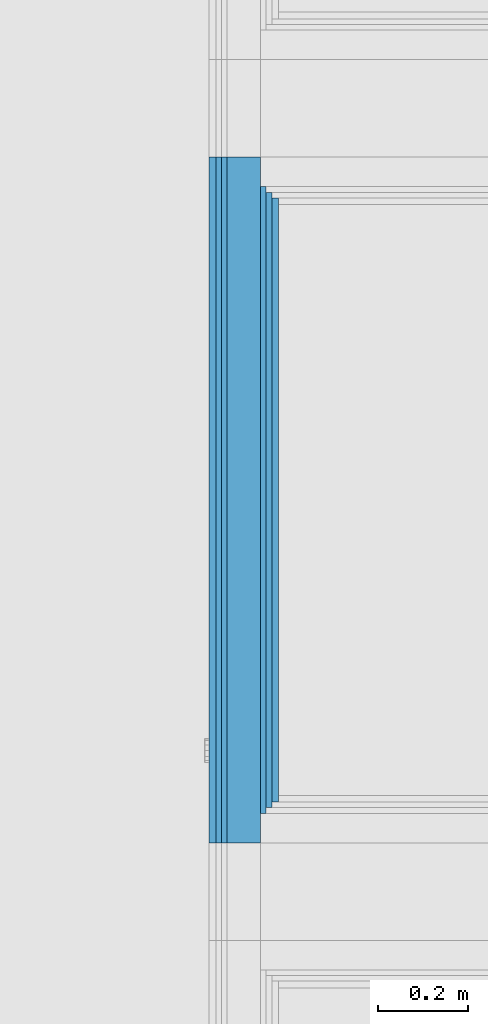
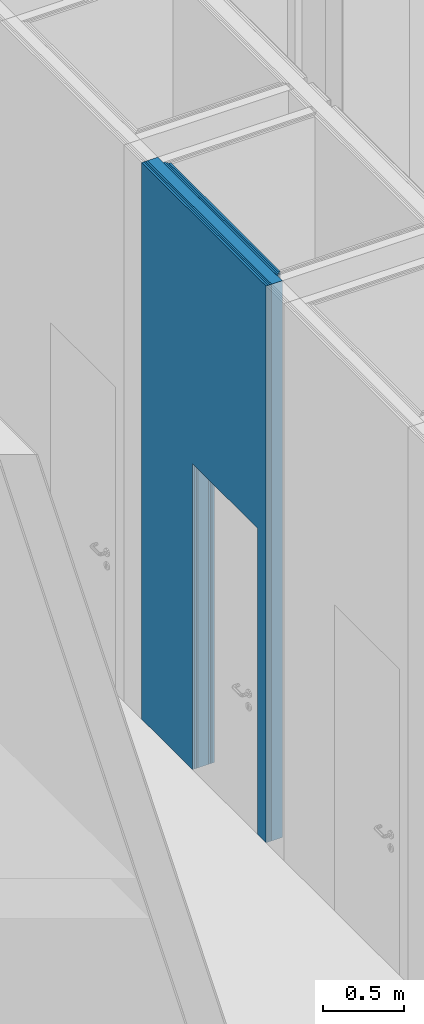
# One storey, part 62 of 260: 7 building element parts, 1 opening, 1 element without a shape of its own.
"""IFC2X3 building model written with IfcOpenShell, lengths in millimetres."""

import ifcopenshell
import ifcopenshell.guid

model = None  # the IFC model being written
_history = None  # IfcOwnerHistory: only IFC2X3 demands one
_inside = {}  # id of a spatial element -> (the spatial element, [elements in it])
_under = {}  # id of a project, library or spatial element -> (it, [spatial elements below it])
_declared = {}  # id of a project -> (the project, [libraries it declares])
_typed = {}  # id of a type object -> (the type object, [elements of that type])
_made_of = {}  # id of a material, layer set ... -> (it, [elements and type objects made of it])


def new_model(schema):
    """Start an empty IFC model of exactly this schema.

    Asked for "IFC4X3", IfcOpenShell would pick the latest addendum, in which some entities
    have other attributes; the version numbers below select the first issue.
    IFC2X3 requires an IfcOwnerHistory on every rooted entity: one is made here for all.
    """
    global model, _history
    if schema == "IFC4X3":
        model = ifcopenshell.file(schema_version=(4, 3, 0, 0))
    else:
        model = ifcopenshell.file(schema=schema)
    _inside.clear()
    _under.clear()
    _declared.clear()
    _typed.clear()
    _made_of.clear()
    _history = None
    if model.schema == "IFC2X3":
        org = make("IfcOrganization", Name="unknown")
        user = make(
            "IfcPersonAndOrganization",
            ThePerson=make("IfcPerson", FamilyName="unknown"),
            TheOrganization=org,
        )
        app = make(
            "IfcApplication",
            ApplicationDeveloper=org,
            Version="unknown",
            ApplicationFullName="unknown",
            ApplicationIdentifier="unknown",
        )
        _history = make(
            "IfcOwnerHistory",
            OwningUser=user,
            OwningApplication=app,
            ChangeAction="ADDED",
            CreationDate=0,
        )
    return model


def make(cls, **values):
    """One entity of the class cls with the attributes given. An attribute that is None is left unset."""
    return model.create_entity(
        cls, **{name: value for name, value in values.items() if value is not None}
    )


def entity(cls, *values):
    """Any entity or typed value of the class cls, its attributes in the order of the schema. None: left unset."""
    e = model.create_entity(cls)
    for i, value in enumerate(values):
        if value is not None:
            e[i] = value
    return e


def rooted(cls, **values):
    """An entity with a GlobalId (a new one), such as an element, a storey or a relation."""
    return make(cls, GlobalId=ifcopenshell.guid.new(), OwnerHistory=_history, **values)


def si_unit(unit_type, name, prefix=None):
    """IfcSIUnit, for example si_unit("LENGTHUNIT", "METRE", prefix="MILLI")."""
    return make("IfcSIUnit", UnitType=unit_type, Prefix=prefix, Name=name)


def converted_unit(unit_type, name, factor, base, dimensions=None, offset=None):
    """IfcConversionBasedUnit, such as the inch: factor (a typed value) times the base unit."""
    return make(
        "IfcConversionBasedUnit"
        if offset is None
        else "IfcConversionBasedUnitWithOffset",
        ConversionOffset=offset,
        Dimensions=None
        if dimensions is None
        else entity("IfcDimensionalExponents", *dimensions),
        UnitType=unit_type,
        Name=name,
        ConversionFactor=make(
            "IfcMeasureWithUnit", ValueComponent=factor, UnitComponent=base
        ),
    )


def derived_unit(unit_type, elements):
    """IfcDerivedUnit: a product of units, each with its exponent."""
    return make(
        "IfcDerivedUnit",
        Elements=[
            make("IfcDerivedUnitElement", Unit=unit, Exponent=power)
            for unit, power in elements
        ],
        UnitType=unit_type,
    )


def money_unit(currency):
    """IfcMonetaryUnit."""
    return make("IfcMonetaryUnit", Currency=currency)


def assignment(units):
    """IfcUnitAssignment: the units of a project."""
    return None if units is None else make("IfcUnitAssignment", Units=units)


def point(xyz):
    """IfcCartesianPoint."""
    return None if xyz is None else make("IfcCartesianPoint", Coordinates=xyz)


def direction(xyz):
    """IfcDirection."""
    return None if xyz is None else make("IfcDirection", DirectionRatios=xyz)


def frame(location, z_axis=None, x_axis=None):
    """IfcAxis2Placement3D, a coordinate frame: its origin and axes. An axis left out is left unset."""
    return make(
        "IfcAxis2Placement3D",
        Location=point(location),
        Axis=direction(z_axis),
        RefDirection=direction(x_axis),
    )


def origin_with_axes():
    """The frame at (0, 0, 0) with the z axis (0, 0, 1) and the x axis (1, 0, 0) written out."""
    return frame((0.0, 0.0, 0.0), z_axis=(0.0, 0.0, 1.0), x_axis=(1.0, 0.0, 0.0))


def place(relative_to, where):
    """IfcLocalPlacement: puts the frame where relative to a parent placement (None: the world)."""
    return make(
        "IfcLocalPlacement", PlacementRelTo=relative_to, RelativePlacement=where
    )


def context(
    kind, dimensions, precision=None, world=None, true_north=None, identifier=None
):
    """IfcGeometricRepresentationContext, for example the 3D "Model" context."""
    return make(
        "IfcGeometricRepresentationContext",
        ContextIdentifier=identifier,
        ContextType=kind,
        CoordinateSpaceDimension=dimensions,
        Precision=precision,
        WorldCoordinateSystem=world,
        TrueNorth=true_north,
    )


def subcontext(parent, identifier, kind, view, scale=None):
    """IfcGeometricRepresentationSubContext, for example "Body" below "Model"."""
    return make(
        "IfcGeometricRepresentationSubContext",
        ContextIdentifier=identifier,
        ContextType=kind,
        ParentContext=parent,
        TargetScale=scale,
        TargetView=view,
    )


def project(units=None, contexts=None):
    """IfcProject with its units and contexts."""
    return rooted(
        "IfcProject",
        Name="project",
        RepresentationContexts=contexts,
        UnitsInContext=assignment(units),
    )


def spatial(cls, under=None, at=None, **own):
    """A site, building, storey or space (cls), placed at a placement, below another one or the project."""
    s = rooted(cls, ObjectPlacement=at, **own)
    if under is not None:
        _under.setdefault(under.id(), (under, []))[1].append(s)
    return s


def faces_of(points, faces, orient=None, outer=None):
    """IfcFace entities. A face is a list of loops; a loop is a list of indices into points, from 0.

    orient and outer hold one flag for each loop. By default every Orientation is true, the
    first loop of a face is its IfcFaceOuterBound and the others are IfcFaceBound.
    """
    made = []
    for i, loops in enumerate(faces):
        bounds = []
        for j, loop in enumerate(loops):
            is_outer = j == 0 if outer is None else outer[i][j]
            bounds.append(
                make(
                    "IfcFaceOuterBound" if is_outer else "IfcFaceBound",
                    Bound=make("IfcPolyLoop", Polygon=[points[k] for k in loop]),
                    Orientation=True if orient is None else orient[i][j],
                )
            )
        made.append(make("IfcFace", Bounds=bounds))
    return made


def faceted_brep(points, faces, orient=None, outer=None, voids=None):
    """IfcFacetedBrep: a solid bounded by flat faces; with voids (closed shells), ...WithVoids."""
    shared = [point(p) for p in points]
    hull = make("IfcClosedShell", CfsFaces=faces_of(shared, faces, orient, outer))
    if voids is None:
        return make("IfcFacetedBrep", Outer=hull)
    return make(
        "IfcFacetedBrepWithVoids",
        Outer=hull,
        Voids=[
            make(cls, CfsFaces=faces_of(shared, fs, o, b)) for cls, fs, o, b in voids
        ],
    )


def shape(context_of_items, identifier, shape_type, items):
    """IfcShapeRepresentation: the items that make up one representation, for example the "Body"."""
    return make(
        "IfcShapeRepresentation",
        ContextOfItems=context_of_items,
        RepresentationIdentifier=identifier,
        RepresentationType=shape_type,
        Items=items,
    )


def material(Name=None, Category=None):
    """IfcMaterial."""
    return make("IfcMaterial", Name=Name, Category=Category)


def made_of(thing, what):
    """Note that an element or type object is made of a material, layer set ...; save() writes the relation."""
    if what is not None:
        _made_of.setdefault(what.id(), (what, []))[1].append(thing)
    return thing


def type_object(cls, material=None, **own):
    """A type object (cls), such as IfcWallType, which elements share."""
    return made_of(rooted(cls, **own), material)


def element(
    cls,
    number,
    at=None,
    inside=None,
    cuts=None,
    type_object=None,
    material=None,
    context=None,
    identifier="Body",
    shape_type=None,
    held_by="IfcProductDefinitionShape",
    body=None,
    shapes=None,
    **own,
):
    """One element of the class cls, such as IfcWall. Its Tag is "e" and its number.

    at: its placement. inside: the storey or other place that contains it. cuts: it is an
    opening in that element (IfcRelVoidsElement). A single representation is given by context,
    identifier, shape_type and body (its items); several are given by shapes. held_by: the class
    of the entity that holds the representations. save() writes the other relations.
    """
    e = rooted(cls, Tag="e%d" % number, ObjectPlacement=at, **own)
    if body is not None:
        shapes = [shape(context, identifier, shape_type, body)]
    if shapes is not None:
        e.Representation = make(held_by, Representations=shapes)
    if inside is not None:
        _inside.setdefault(inside.id(), (inside, []))[1].append(e)
    if cuts is not None:
        rooted(
            "IfcRelVoidsElement", RelatingBuildingElement=cuts, RelatedOpeningElement=e
        )
    if type_object is not None:
        _typed.setdefault(type_object.id(), (type_object, []))[1].append(e)
    return made_of(e, material)


def aggregate(whole, parts):
    """IfcRelAggregates: a whole, such as a stair, and the parts it consists of."""
    return rooted("IfcRelAggregates", RelatingObject=whole, RelatedObjects=parts)


def save(model, path):
    """Write the relations noted so far, then the file.

    IfcRelAggregates (storeys below a building ...), IfcRelContainedInSpatialStructure (elements
    in a storey), IfcRelDefinesByType, IfcRelAssociatesMaterial and IfcRelDeclares: one each for
    every whole, place, type object, material and project.
    """
    for whole, parts in _under.values():
        aggregate(whole, parts)
    for where, things in _inside.values():
        rooted(
            "IfcRelContainedInSpatialStructure",
            RelatedElements=things,
            RelatingStructure=where,
        )
    for kind, things in _typed.values():
        rooted("IfcRelDefinesByType", RelatedObjects=things, RelatingType=kind)
    for what, things in _made_of.values():
        rooted("IfcRelAssociatesMaterial", RelatedObjects=things, RelatingMaterial=what)
    for by, libraries in _declared.values():
        rooted("IfcRelDeclares", RelatingContext=by, RelatedDefinitions=libraries)
    model.write(path)


model = new_model("IFC2X3")

# Units and contexts
model_context = context("Model", 3, precision=0.01, world=origin_with_axes(), true_north=direction((0.0, 1.0)))
body_context = subcontext(model_context, "Body", "Model", "MODEL_VIEW")
ifc_project = project(units=[si_unit("LENGTHUNIT", "METRE", prefix="MILLI"), si_unit("AREAUNIT", "SQUARE_METRE"), si_unit("VOLUMEUNIT", "CUBIC_METRE"), converted_unit("PLANEANGLEUNIT", "DEGREE", entity("IfcPlaneAngleMeasure", 0.0174532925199), si_unit("PLANEANGLEUNIT", "RADIAN"), dimensions=[0, 0, 0, 0, 0, 0, 0]), money_unit("EUR"), converted_unit("TIMEUNIT", "Year", entity("IfcTimeMeasure", 31556926.0), si_unit("TIMEUNIT", "SECOND"), dimensions=[0, 0, 1, 0, 0, 0, 0]), si_unit("MASSUNIT", "GRAM", prefix="KILO"), si_unit("THERMODYNAMICTEMPERATUREUNIT", "DEGREE_CELSIUS"), si_unit("LUMINOUSINTENSITYUNIT", "LUMEN"), si_unit("ENERGYUNIT", "JOULE", prefix="MEGA"), derived_unit("THERMALCONDUCTANCEUNIT", [(si_unit("POWERUNIT", "WATT"), 1), (si_unit("LENGTHUNIT", "METRE"), -1), (si_unit("THERMODYNAMICTEMPERATUREUNIT", "KELVIN"), -1)]), derived_unit("SPECIFICHEATCAPACITYUNIT", [(si_unit("ENERGYUNIT", "JOULE"), 1), (si_unit("MASSUNIT", "GRAM", prefix="KILO"), -1), (si_unit("THERMODYNAMICTEMPERATUREUNIT", "KELVIN"), -1)]), derived_unit("MASSDENSITYUNIT", [(si_unit("MASSUNIT", "GRAM", prefix="KILO"), 1), (si_unit("VOLUMEUNIT", "CUBIC_METRE"), -1)])], contexts=[model_context])

# Site, building, storey
site_placement = place(None, origin_with_axes())
site = spatial("IfcSite", under=ifc_project, at=site_placement, Name="Kolde pst 67a", CompositionType="ELEMENT")
building_placement = place(site_placement, origin_with_axes())
building = spatial("IfcBuilding", under=site, at=building_placement, Name="Riigigümnaasium", CompositionType="ELEMENT")
storey_placement = place(building_placement, origin_with_axes())
storey = spatial("IfcBuildingStorey", under=building, at=storey_placement, Name="1. korrus", CompositionType="ELEMENT", Elevation=0.0)

# Wall, opening, building element parts
wall_type = type_object("IfcWallType", Name="SS-MK-7,5/1_plaaditud 155", PredefinedType="NOTDEFINED")
wall_placement = place(storey_placement, frame((66260.8875355, 18743.9999712, 0.0), z_axis=(0.0, 0.0, 1.0), x_axis=(0.0, 1.0, 0.0)))
wall = element("IfcWall", 1, at=wall_placement, inside=storey, type_object=wall_type, Name="Sisesein")
opening_placement = place(wall_placement, frame((505.999998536, 0.0, 0.0), z_axis=(0.0, 0.0, 1.0), x_axis=(1.0, 0.0, 0.0)))
element("IfcOpeningElement", 2, at=opening_placement, cuts=wall, Name="Siseuks", context=body_context, shape_type="Brep", body=[
    faceted_brep([(400.0, -155.0, 2300.0), (400.0, -155.0, 0.0), (400.0, 310.0, 0.0), (400.0, 310.0, 2300.0), (-400.0, -155.0, 2300.0), (-400.0, -155.0, 0.0), (-400.0, 310.0, 0.0), (-400.0, 310.0, 2300.0)], [[[0, 1, 2, 3]], [[0, 4, 5, 1]], [[1, 5, 6, 2]], [[3, 2, 6, 7]], [[4, 0, 3, 7]], [[5, 4, 7, 6]]]),
])
ifc_material_1 = material(Name="_VIIMISTLUSKIHT - viimistlus vastavalt SA osale")
building_element_part_1_placement = place(wall_placement, origin_with_axes())
building_element_part_1 = element("IfcBuildingElementPart", 3, at=building_element_part_1_placement, material=ifc_material_1, Name="_VIIMISTLUSKIHT - viimistlus vastavalt SA osale", context=body_context, shape_type="Brep", body=[
    faceted_brep([(105.999998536, -15.0, 0.0), (105.999998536, -15.0, 2300.0), (905.999998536, -15.0, 2300.0), (905.999998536, -15.0, 0.0), (1532.07687759, -15.0, 0.0), (1532.07687759, -15.0, 4185.0), (0.0, -15.0, 4185.0), (0.0, -15.0, 0.0), (105.999998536, 0.0, 0.0), (105.999998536, 0.0, 2300.0), (905.999998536, 0.0, 2300.0), (905.999998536, 0.0, 0.0), (1532.07687759, 0.0, 0.0), (1532.07687759, 0.0, 4185.0), (0.0, 0.0, 4185.0), (0.0, 0.0, 0.0)], [[[0, 1, 2, 3, 4, 5, 6, 7]], [[1, 0, 8, 9]], [[2, 1, 9, 10]], [[3, 2, 10, 11]], [[3, 11, 12, 4]], [[5, 4, 12, 13]], [[5, 13, 14, 6]], [[14, 15, 7, 6]], [[8, 0, 7, 15]], [[9, 8, 15, 14, 13, 12, 11, 10]]]),
])
ifc_material_2 = material(Name="_PLAATMATERJAL - kipsplaat veekindel")
building_element_part_2_placement = place(wall_placement, origin_with_axes())
building_element_part_2 = element("IfcBuildingElementPart", 4, at=building_element_part_2_placement, material=ifc_material_2, Name="_PLAATMATERJAL - kipsplaat veekindel", context=body_context, shape_type="Brep", body=[
    faceted_brep([(105.999998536, -27.5, 0.0), (105.999998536, -27.5, 2300.0), (905.999998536, -27.5, 2300.0), (905.999998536, -27.5, 0.0), (1532.07687759, -27.5, 0.0), (1532.07687759, -27.5, 4185.0), (0.0, -27.5, 4185.0), (0.0, -27.5, 0.0), (105.999998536, -15.0, 0.0), (105.999998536, -15.0, 2300.0), (905.999998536, -15.0, 2300.0), (905.999998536, -15.0, 0.0), (1532.07687759, -15.0, 0.0), (1532.07687759, -15.0, 4185.0), (0.0, -15.0, 4185.0), (0.0, -15.0, 0.0)], [[[0, 1, 2, 3, 4, 5, 6, 7]], [[1, 0, 8, 9]], [[2, 1, 9, 10]], [[3, 2, 10, 11]], [[3, 11, 12, 4]], [[5, 4, 12, 13]], [[5, 13, 14, 6]], [[14, 15, 7, 6]], [[8, 0, 7, 15]], [[9, 8, 15, 14, 13, 12, 11, 10]]]),
])
building_element_part_3_placement = place(wall_placement, origin_with_axes())
building_element_part_3 = element("IfcBuildingElementPart", 5, at=building_element_part_3_placement, material=ifc_material_2, Name="_PLAATMATERJAL - kipsplaat veekindel", context=body_context, shape_type="Brep", body=[
    faceted_brep([(105.999998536, -40.0, 0.0), (105.999998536, -40.0, 2300.0), (905.999998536, -40.0, 2300.0), (905.999998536, -40.0, 0.0), (1532.07687759, -40.0, 0.0), (1532.07687759, -40.0, 4185.0), (0.0, -40.0, 4185.0), (0.0, -40.0, 0.0), (105.999998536, -27.5, 0.0), (105.999998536, -27.5, 2300.0), (905.999998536, -27.5, 2300.0), (905.999998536, -27.5, 0.0), (1532.07687759, -27.5, 0.0), (1532.07687759, -27.5, 4185.0), (0.0, -27.5, 4185.0), (0.0, -27.5, 0.0)], [[[0, 1, 2, 3, 4, 5, 6, 7]], [[1, 0, 8, 9]], [[2, 1, 9, 10]], [[3, 2, 10, 11]], [[3, 11, 12, 4]], [[5, 4, 12, 13]], [[5, 13, 14, 6]], [[14, 15, 7, 6]], [[8, 0, 7, 15]], [[9, 8, 15, 14, 13, 12, 11, 10]]]),
])
ifc_material_3 = material(Name="_KARKASS - metallkarkass CW 75/50, mineraalvill karkassi vahel")
building_element_part_4_placement = place(wall_placement, origin_with_axes())
building_element_part_4 = element("IfcBuildingElementPart", 6, at=building_element_part_4_placement, material=ifc_material_3, Name="_KARKASS - metallkarkass CW 75/50, mineraalvill karkassi vahel", context=body_context, shape_type="Brep", body=[
    faceted_brep([(105.999998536, -115.0, 0.0), (105.999998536, -115.0, 2300.0), (905.999998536, -115.0, 2300.0), (905.999998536, -115.0, 0.0), (1532.07687759, -115.0, 0.0), (1532.07687759, -115.0, 4185.0), (0.0, -115.0, 4185.0), (0.0, -115.0, 0.0), (105.999998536, -40.0, 0.0), (105.999998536, -40.0, 2300.0), (905.999998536, -40.0, 2300.0), (905.999998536, -40.0, 0.0), (1532.07687759, -40.0, 0.0), (1532.07687759, -40.0, 4185.0), (0.0, -40.0, 4185.0), (0.0, -40.0, 0.0)], [[[0, 1, 2, 3, 4, 5, 6, 7]], [[1, 0, 8, 9]], [[2, 1, 9, 10]], [[3, 2, 10, 11]], [[3, 11, 12, 4]], [[5, 4, 12, 13]], [[5, 13, 14, 6]], [[14, 15, 7, 6]], [[8, 0, 7, 15]], [[9, 8, 15, 14, 13, 12, 11, 10]]]),
])
building_element_part_5_placement = place(wall_placement, origin_with_axes())
building_element_part_5 = element("IfcBuildingElementPart", 7, at=building_element_part_5_placement, material=ifc_material_2, Name="_PLAATMATERJAL - kipsplaat veekindel", context=body_context, shape_type="Brep", body=[
    faceted_brep([(105.999998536, -127.5, 0.0), (105.999998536, -127.5, 2300.0), (905.999998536, -127.5, 2300.0), (905.999998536, -127.5, 0.0), (1466.07688668, -127.5, 0.0), (1466.07688668, -127.5, 4185.0), (66.0, -127.5, 4185.0), (66.0, -127.5, 0.0), (105.999998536, -115.0, 0.0), (105.999998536, -115.0, 2300.0), (905.999998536, -115.0, 2300.0), (905.999998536, -115.0, 0.0), (1466.07687759, -115.0, 0.0), (1466.07687759, -115.0, 4185.0), (66.0, -115.0, 4185.0), (66.0, -115.0, 0.0)], [[[0, 1, 2, 3, 4, 5, 6, 7]], [[1, 0, 8, 9]], [[2, 1, 9, 10]], [[3, 2, 10, 11]], [[3, 11, 12, 4]], [[5, 4, 12, 13]], [[5, 13, 14, 6]], [[14, 15, 7, 6]], [[8, 0, 7, 15]], [[9, 8, 15, 14, 13, 12, 11, 10]]]),
])
building_element_part_6_placement = place(wall_placement, origin_with_axes())
building_element_part_6 = element("IfcBuildingElementPart", 8, at=building_element_part_6_placement, material=ifc_material_2, Name="_PLAATMATERJAL - kipsplaat veekindel", context=body_context, shape_type="Brep", body=[
    faceted_brep([(105.999998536, -140.0, 0.0), (105.999998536, -140.0, 2300.0), (905.999998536, -140.0, 2300.0), (905.999998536, -140.0, 0.0), (1453.57689577, -140.0, 0.0), (1453.57689577, -140.0, 4185.0), (78.5, -140.0, 4185.0), (78.5, -140.0, 0.0), (105.999998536, -127.5, 0.0), (105.999998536, -127.5, 2300.0), (905.999998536, -127.5, 2300.0), (905.999998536, -127.5, 0.0), (1453.57688668, -127.5, 0.0), (1453.57688668, -127.5, 4185.0), (78.5, -127.5, 4185.0), (78.5, -127.5, 0.0)], [[[0, 1, 2, 3, 4, 5, 6, 7]], [[1, 0, 8, 9]], [[2, 1, 9, 10]], [[3, 2, 10, 11]], [[3, 11, 12, 4]], [[5, 4, 12, 13]], [[5, 13, 14, 6]], [[14, 15, 7, 6]], [[8, 0, 7, 15]], [[9, 8, 15, 14, 13, 12, 11, 10]]]),
])
building_element_part_7_placement = place(wall_placement, origin_with_axes())
building_element_part_7 = element("IfcBuildingElementPart", 9, at=building_element_part_7_placement, material=ifc_material_1, Name="_VIIMISTLUSKIHT - viimistlus vastavalt SA osale", context=body_context, shape_type="Brep", body=[
    faceted_brep([(105.999998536, -155.0, 0.0), (105.999998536, -155.0, 2300.0), (905.999998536, -155.0, 2300.0), (905.999998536, -155.0, 0.0), (1441.07690668, -155.0, 0.0), (1441.07690668, -155.0, 4185.0), (91.0, -155.0, 4185.0), (91.0, -155.0, 0.0), (105.999998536, -140.0, 0.0), (105.999998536, -140.0, 2300.0), (905.999998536, -140.0, 2300.0), (905.999998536, -140.0, 0.0), (1441.07689577, -140.0, 0.0), (1441.07689577, -140.0, 4185.0), (91.0, -140.0, 4185.0), (91.0, -140.0, 0.0)], [[[0, 1, 2, 3, 4, 5, 6, 7]], [[1, 0, 8, 9]], [[2, 1, 9, 10]], [[3, 2, 10, 11]], [[3, 11, 12, 4]], [[5, 4, 12, 13]], [[5, 13, 14, 6]], [[14, 15, 7, 6]], [[8, 0, 7, 15]], [[9, 8, 15, 14, 13, 12, 11, 10]]]),
])
aggregate(wall, [building_element_part_1, building_element_part_2, building_element_part_3, building_element_part_4, building_element_part_5, building_element_part_6, building_element_part_7])

save(model, "model.ifc")
